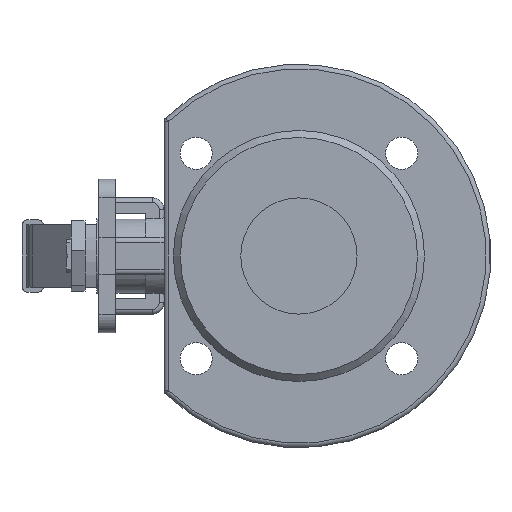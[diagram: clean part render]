
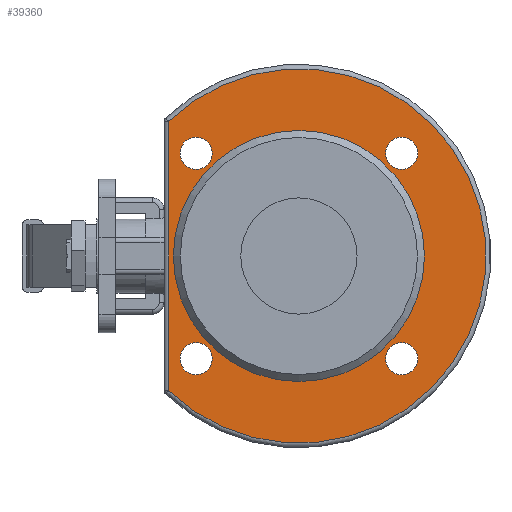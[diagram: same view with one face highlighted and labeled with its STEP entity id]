
A CAD part, left-side view. The second image highlights one B-rep face of the part: STEP entity #39360.
In plain terms, the highlighted planar face has unit normal (-1, 0, 0).
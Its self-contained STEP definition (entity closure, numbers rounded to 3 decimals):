
#39047=CARTESIAN_POINT('',(-37.0,56.,57.829));
#39048=VERTEX_POINT('',#39047);
#39056=CARTESIAN_POINT('',(-37.0,56.,-57.829));
#39057=VERTEX_POINT('',#39056);
#39058=CARTESIAN_POINT('',(-37.0,0.0,0.0));
#39059=DIRECTION('',(1.0,0.0,0.0));
#39060=DIRECTION('',(0.0,-1.0,0.0));
#39061=AXIS2_PLACEMENT_3D('',#39058,#39059,#39060);
#39062=CIRCLE('',#39061,80.5);
#39063=EDGE_CURVE('',#39048,#39057,#39062,.T.);
#39113=CARTESIAN_POINT('',(-37.0,56.,-57.829));
#39114=DIRECTION('',(0.0,0.0,1.0));
#39115=VECTOR('',#39114,115.659);
#39116=LINE('',#39113,#39115);
#39117=EDGE_CURVE('',#39057,#39048,#39116,.T.);
#39296=CARTESIAN_POINT('',(-37.0,68.25,0.0));
#39297=DIRECTION('',(-1.0,0.0,0.0));
#39298=DIRECTION('',(0.0,0.0,1.0));
#39299=AXIS2_PLACEMENT_3D('',#39296,#39297,#39298);
#39300=PLANE('',#39299);
#39301=ORIENTED_EDGE('',*,*,#39063,.F.);
#39302=ORIENTED_EDGE('',*,*,#39117,.F.);
#39303=EDGE_LOOP('',(#39301,#39302));
#39304=FACE_OUTER_BOUND('',#39303,.T.);
#39305=CARTESIAN_POINT('',(-37.0,54.,0.0));
#39306=VERTEX_POINT('',#39305);
#39307=CARTESIAN_POINT('',(-37.0,0.0,0.0));
#39308=DIRECTION('',(1.0,0.0,0.0));
#39309=DIRECTION('',(0.0,1.0,0.0));
#39310=AXIS2_PLACEMENT_3D('',#39307,#39308,#39309);
#39311=CIRCLE('',#39310,54.);
#39312=EDGE_CURVE('',#39306,#39306,#39311,.T.);
#39313=ORIENTED_EDGE('',*,*,#39312,.T.);
#39314=EDGE_LOOP('',(#39313));
#39315=FACE_BOUND('',#39314,.T.);
#39316=CARTESIAN_POINT('',(-37.0,-44.194,51.112));
#39317=VERTEX_POINT('',#39316);
#39318=CARTESIAN_POINT('',(-37.,-44.194,44.194));
#39319=DIRECTION('',(1.0,0.0,0.0));
#39320=DIRECTION('',(0.0,0.0,1.0));
#39321=AXIS2_PLACEMENT_3D('',#39318,#39319,#39320);
#39322=CIRCLE('',#39321,6.918);
#39323=EDGE_CURVE('',#39317,#39317,#39322,.T.);
#39324=ORIENTED_EDGE('',*,*,#39323,.T.);
#39325=EDGE_LOOP('',(#39324));
#39326=FACE_BOUND('',#39325,.T.);
#39327=CARTESIAN_POINT('',(-37.0,44.194,-37.277));
#39328=VERTEX_POINT('',#39327);
#39329=CARTESIAN_POINT('',(-37.,44.194,-44.194));
#39330=DIRECTION('',(1.0,0.0,0.0));
#39331=DIRECTION('',(0.0,0.0,1.0));
#39332=AXIS2_PLACEMENT_3D('',#39329,#39330,#39331);
#39333=CIRCLE('',#39332,6.918);
#39334=EDGE_CURVE('',#39328,#39328,#39333,.T.);
#39335=ORIENTED_EDGE('',*,*,#39334,.T.);
#39336=EDGE_LOOP('',(#39335));
#39337=FACE_BOUND('',#39336,.T.);
#39338=CARTESIAN_POINT('',(-37.0,44.194,51.112));
#39339=VERTEX_POINT('',#39338);
#39340=CARTESIAN_POINT('',(-37.,44.194,44.194));
#39341=DIRECTION('',(1.0,0.0,0.0));
#39342=DIRECTION('',(0.0,0.0,1.0));
#39343=AXIS2_PLACEMENT_3D('',#39340,#39341,#39342);
#39344=CIRCLE('',#39343,6.918);
#39345=EDGE_CURVE('',#39339,#39339,#39344,.T.);
#39346=ORIENTED_EDGE('',*,*,#39345,.T.);
#39347=EDGE_LOOP('',(#39346));
#39348=FACE_BOUND('',#39347,.T.);
#39349=CARTESIAN_POINT('',(-37.0,-44.194,-37.277));
#39350=VERTEX_POINT('',#39349);
#39351=CARTESIAN_POINT('',(-37.,-44.194,-44.194));
#39352=DIRECTION('',(1.0,0.0,0.0));
#39353=DIRECTION('',(0.0,0.0,1.0));
#39354=AXIS2_PLACEMENT_3D('',#39351,#39352,#39353);
#39355=CIRCLE('',#39354,6.918);
#39356=EDGE_CURVE('',#39350,#39350,#39355,.T.);
#39357=ORIENTED_EDGE('',*,*,#39356,.T.);
#39358=EDGE_LOOP('',(#39357));
#39359=FACE_BOUND('',#39358,.T.);
#39360=ADVANCED_FACE('',(#39304,#39315,#39326,#39337,#39348,#39359),#39300,.T.);
